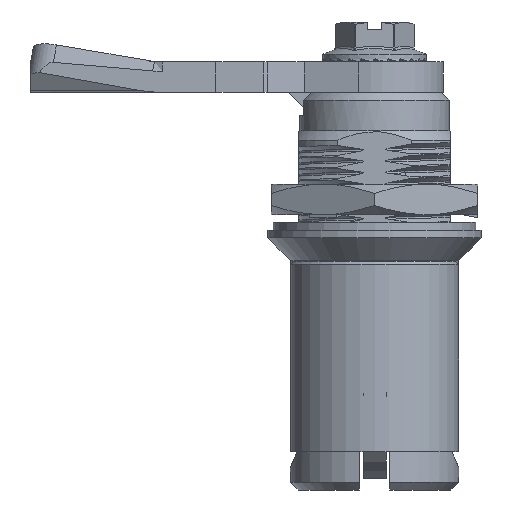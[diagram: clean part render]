
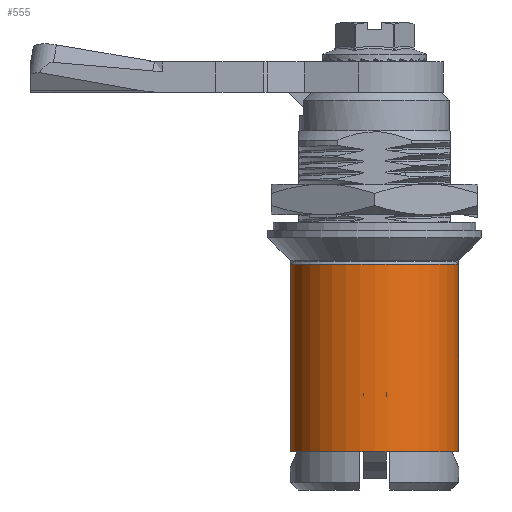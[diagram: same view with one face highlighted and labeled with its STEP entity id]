
A CAD part, front view. The second image highlights one B-rep face of the part: STEP entity #555.
In plain terms, the highlighted cylindrical face has radius 11 mm (diameter 22 mm), a partial arc.
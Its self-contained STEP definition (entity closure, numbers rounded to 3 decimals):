
#51=DIRECTION('',(0.,0.,-1.));
#52=VECTOR('',#51,15.);
#53=CARTESIAN_POINT('',(11.,0.,
-0.5));
#54=LINE('',#53,#52);
#55=CARTESIAN_POINT('',(0.,0.,-0.5));
#56=DIRECTION('',(0.,0.,-1.));
#57=DIRECTION('',(1.,0.,0.));
#58=AXIS2_PLACEMENT_3D('',#55,#56,#57);
#60=DIRECTION('',(0.,0.,-1.));
#61=VECTOR('',#60,24.5);
#62=CARTESIAN_POINT('',(-11.,0.,
-0.5));
#63=LINE('',#62,#61);
#64=DIRECTION('',(0.,0.,1.));
#65=VECTOR('',#64,5.5);
#66=CARTESIAN_POINT('',(11.,0.,-25.));
#67=LINE('',#66,#65);
#68=CARTESIAN_POINT('',(11.,0.,-19.5));
#69=CARTESIAN_POINT('',(11.,0.126,-19.501));
#70=CARTESIAN_POINT('',(10.996,0.377,-19.477));
#71=CARTESIAN_POINT('',(10.975,0.773,-19.36));
#72=CARTESIAN_POINT('',(10.944,1.12,-19.172));
#73=CARTESIAN_POINT('',(10.909,1.423,-18.923));
#74=CARTESIAN_POINT('',(10.873,1.672,-18.621));
#75=CARTESIAN_POINT('',(10.842,1.859,-18.272));
#76=CARTESIAN_POINT('',(10.821,1.974,-17.892));
#77=CARTESIAN_POINT('',(10.817,2.,-17.633));
#78=CARTESIAN_POINT('',(10.817,2.,-17.5));
#80=CARTESIAN_POINT('',(10.817,2.,-17.5));
#81=CARTESIAN_POINT('',(10.817,2.,-17.367));
#82=CARTESIAN_POINT('',(10.821,1.974,-17.108));
#83=CARTESIAN_POINT('',(10.842,1.859,-16.728));
#84=CARTESIAN_POINT('',(10.873,1.672,-16.379));
#85=CARTESIAN_POINT('',(10.909,1.423,-16.077));
#86=CARTESIAN_POINT('',(10.944,1.12,-15.828));
#87=CARTESIAN_POINT('',(10.975,0.772,-15.64));
#88=CARTESIAN_POINT('',(10.996,0.377,-15.523));
#89=CARTESIAN_POINT('',(11.,0.126,-15.499));
#90=CARTESIAN_POINT('',(11.,0.,-15.5));
#97=CARTESIAN_POINT('',(0.,0.,-25.));
#98=DIRECTION('',(0.,0.,-1.));
#99=DIRECTION('',(1.,0.,0.));
#100=AXIS2_PLACEMENT_3D('',#97,#98,#99);
#353=CARTESIAN_POINT('',(11.,0.,-0.5));
#354=CARTESIAN_POINT('',(-11.,0.,-0.5));
#355=VERTEX_POINT('',#353);
#356=VERTEX_POINT('',#354);
#439=CARTESIAN_POINT('',(11.,0.,-25.));
#440=CARTESIAN_POINT('',(-11.,0.,-25.));
#441=VERTEX_POINT('',#439);
#442=VERTEX_POINT('',#440);
#443=VERTEX_POINT('',#68);
#444=VERTEX_POINT('',#78);
#445=VERTEX_POINT('',#90);
#535=CARTESIAN_POINT('',(0.,0.,-26.9));
#536=DIRECTION('',(0.,0.,1.));
#537=DIRECTION('',(-1.,0.,0.));
#538=AXIS2_PLACEMENT_3D('',#535,#536,#537);
#539=CYLINDRICAL_SURFACE('',#538,11.);
#541=ORIENTED_EDGE('',*,*,#540,.T.);
#543=ORIENTED_EDGE('',*,*,#542,.F.);
#545=ORIENTED_EDGE('',*,*,#544,.F.);
#547=ORIENTED_EDGE('',*,*,#546,.F.);
#549=ORIENTED_EDGE('',*,*,#548,.T.);
#551=ORIENTED_EDGE('',*,*,#550,.F.);
#552=ORIENTED_EDGE('',*,*,#525,.F.);
#553=EDGE_LOOP('',(#541,#543,#545,#547,#549,#551,#552));
#554=FACE_OUTER_BOUND('',#553,.F.);
#555=ADVANCED_FACE('',(#554),#539,.T.);
#59=CIRCLE('',#58,11.);
#79=B_SPLINE_CURVE_WITH_KNOTS('',3,(#68,#69,#70,#71,#72,#73,#74,#75,#76,#77,
#78),.UNSPECIFIED.,.F.,.F.,(4,1,1,1,1,1,1,1,4),(0.,0.125,0.25,0.375,
0.5,0.625,0.75,0.875,1.),.UNSPECIFIED.);
#91=B_SPLINE_CURVE_WITH_KNOTS('',3,(#80,#81,#82,#83,#84,#85,#86,#87,#88,#89,
#90),.UNSPECIFIED.,.F.,.F.,(4,1,1,1,1,1,1,1,4),(0.,0.125,0.25,0.375,
0.5,0.625,0.75,0.875,1.),.UNSPECIFIED.);
#101=CIRCLE('',#100,11.);
#525=EDGE_CURVE('',#355,#356,#59,.T.);
#540=EDGE_CURVE('',#355,#445,#54,.T.);
#542=EDGE_CURVE('',#444,#445,#91,.T.);
#544=EDGE_CURVE('',#443,#444,#79,.T.);
#546=EDGE_CURVE('',#441,#443,#67,.T.);
#548=EDGE_CURVE('',#441,#442,#101,.T.);
#550=EDGE_CURVE('',#356,#442,#63,.T.);
